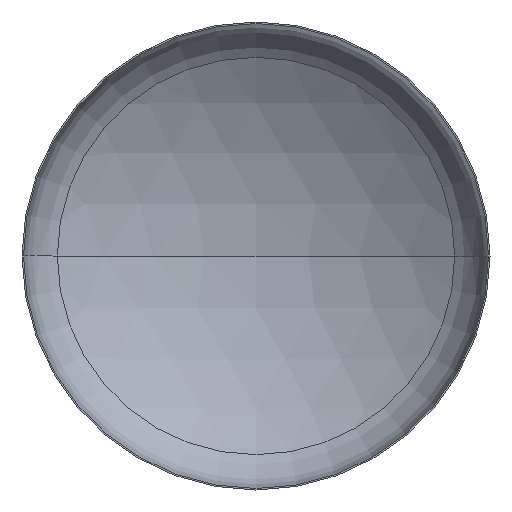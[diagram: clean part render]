
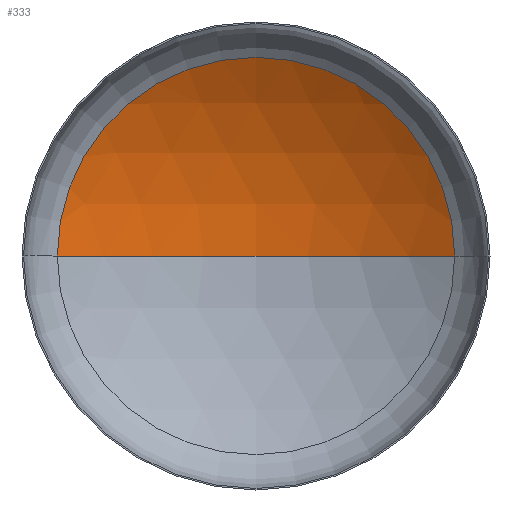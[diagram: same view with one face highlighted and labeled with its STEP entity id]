
A CAD part, front view. The second image highlights one B-rep face of the part: STEP entity #333.
In plain terms, the highlighted spherical face has radius 6000 mm.
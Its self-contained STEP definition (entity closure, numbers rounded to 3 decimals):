
#5 = ORIENTED_EDGE ( 'NONE', *, *, #155, .T. ) ;
#6 = VERTEX_POINT ( 'NONE', #358 ) ;
#25 = ORIENTED_EDGE ( 'NONE', *, *, #156, .T. ) ;
#36 = AXIS2_PLACEMENT_3D ( 'NONE', #86, #141, #265 ) ;
#54 = ORIENTED_EDGE ( 'NONE', *, *, #159, .F. ) ;
#60 = VERTEX_POINT ( 'NONE', #253 ) ;
#86 = CARTESIAN_POINT ( 'NONE',  ( 0., -4031.578, 0. ) ) ;
#93 = CARTESIAN_POINT ( 'NONE',  ( 3183.901, 1053.968, 0. ) ) ;
#105 = EDGE_LOOP ( 'NONE', ( #54, #25, #5 ) ) ;
#107 = AXIS2_PLACEMENT_3D ( 'NONE', #360, #234, #231 ) ;
#110 = AXIS2_PLACEMENT_3D ( 'NONE', #212, #213, #194 ) ;
#115 = AXIS2_PLACEMENT_3D ( 'NONE', #299, #226, #224 ) ;
#141 = DIRECTION ( 'NONE',  ( 0., 0., -1. ) ) ;
#155 = EDGE_CURVE ( 'NONE', #307, #60, #391, .T. ) ;
#156 = EDGE_CURVE ( 'NONE', #6, #307, #336, .T. ) ;
#159 = EDGE_CURVE ( 'NONE', #6, #60, #222, .T. ) ;
#183 = FACE_OUTER_BOUND ( 'NONE', #105, .T. ) ;
#194 = DIRECTION ( 'NONE',  ( -1., 0., 0. ) ) ;
#212 = CARTESIAN_POINT ( 'NONE',  ( 0., -4031.578, 0. ) ) ;
#213 = DIRECTION ( 'NONE',  ( 0., 0., -1. ) ) ;
#222 = CIRCLE ( 'NONE', #107, 6000. ) ;
#224 = DIRECTION ( 'NONE',  ( 1., 0., 0. ) ) ;
#226 = DIRECTION ( 'NONE',  ( 0., -1., 0. ) ) ;
#231 = DIRECTION ( 'NONE',  ( 1., 0., 0. ) ) ;
#234 = DIRECTION ( 'NONE',  ( 0., 0., 1. ) ) ;
#253 = CARTESIAN_POINT ( 'NONE',  ( -3183.901, 1053.968, 0. ) ) ;
#265 = DIRECTION ( 'NONE',  ( -1., 0., 0. ) ) ;
#299 = CARTESIAN_POINT ( 'NONE',  ( 0., 1053.968, 0. ) ) ;
#307 = VERTEX_POINT ( 'NONE', #93 ) ;
#333 = ADVANCED_FACE ( 'NONE', ( #183 ), #359, .F. ) ;
#336 = CIRCLE ( 'NONE', #110, 6000. ) ;
#358 = CARTESIAN_POINT ( 'NONE',  ( 0., 1968.422, 0. ) ) ;
#359 = SPHERICAL_SURFACE ( 'NONE', #36, 6000. ) ;
#360 = CARTESIAN_POINT ( 'NONE',  ( 0., -4031.578, 0. ) ) ;
#391 = CIRCLE ( 'NONE', #115, 3183.901 ) ;
